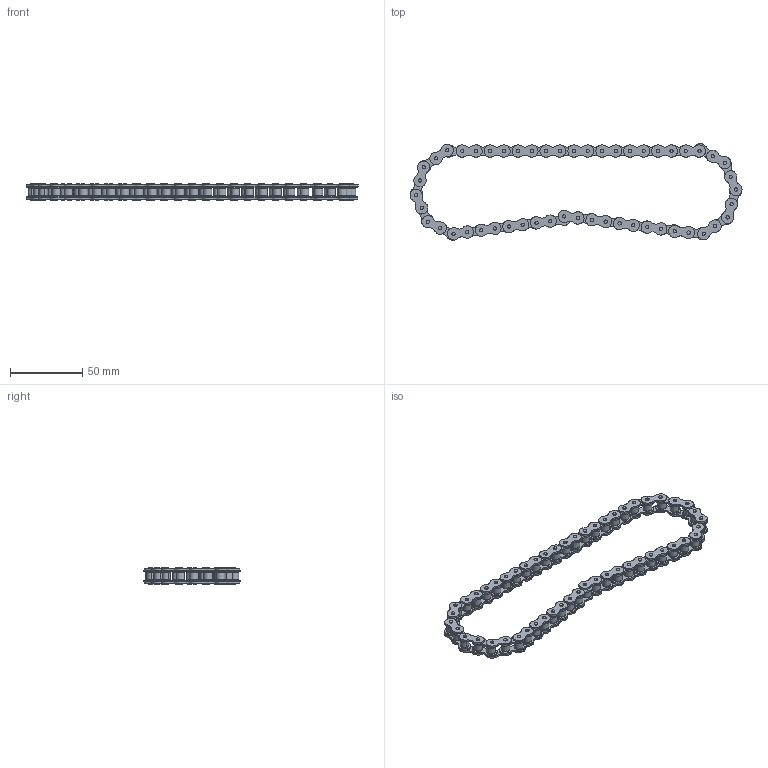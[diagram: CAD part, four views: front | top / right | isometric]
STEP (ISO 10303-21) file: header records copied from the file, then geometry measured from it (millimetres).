
FILE_DESCRIPTION (( 'STEP AP203' ), '1' );
FILE_NAME ('084.803.012.STEP', '2018-03-12T09:15:10', ( '' ), ( '' ), 'SwSTEP 2.0', 'SolidWorks 2016', '' );
FILE_SCHEMA (( 'CONFIG_CONTROL_DESIGN' ));
Length unit declared in the file: millimetre
Products named in the file (1): 084.803.012
Bounding box: 229.73 x 66.99 x 11.36 mm (x, y, z)
Volume: 22928.9 mm3; surface area: 36839.2 mm2
Topology: 26 solids, 26 shells, 1768 faces, 3952 edges, 2496 vertices
Faces by surface type: cylinder 988, bspline 468, plane 312
Entity records: 53539 total; most frequent: CARTESIAN_POINT 13157, DIRECTION 9258, ORIENTED_EDGE 7904, AXIS2_PLACEMENT_3D 4005, EDGE_CURVE 3952, CIRCLE 2704, VERTEX_POINT 2496, EDGE_LOOP 2184
